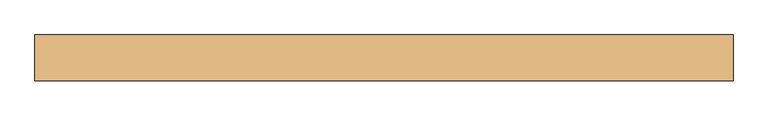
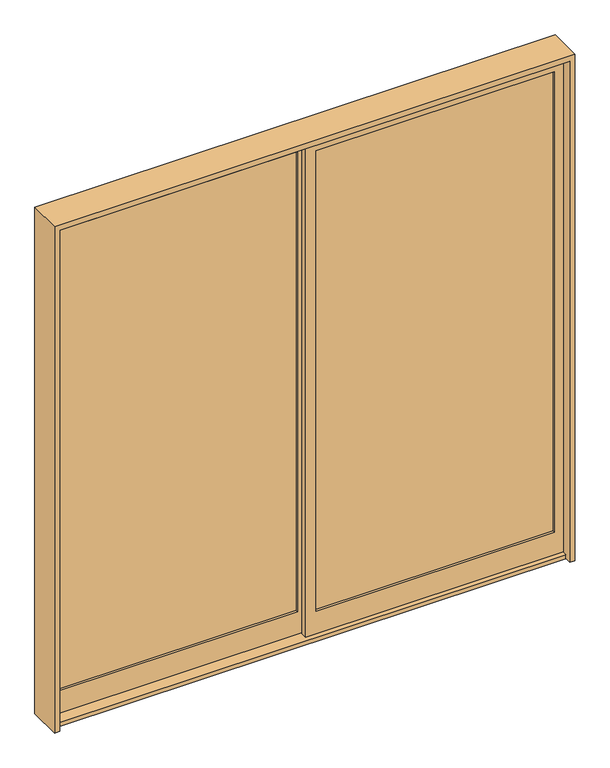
"""IFC4 building model written with IfcOpenShell, lengths in millimetres: door geometry, C_引違扉_フラッシュ : SSD1-H2550W2470."""

from ifc_helpers import new_model, si_unit, frame, origin, place, context, project, spatial, polyline, outline, extrude, source, transform, mapped, element, save


def door_75bfbb1d(model_context):
    return source(origin(), model_context, "Body", "SweptSolid", [
        extrude(outline(polyline([(1190.0, -21.5), (35.0, -21.5), (35.0, -13.5), (1190.0, -13.5), (1190.0, -21.5)])), frame((0.0, 0.0, 125.6453044), z_axis=(0.0, 0.0, 1.0), x_axis=(1.0, 0.0, 0.0)), (0.0, 0.0, 1.0), 2354.3546956),
        extrude(outline(polyline([(10.0, 1240.0), (2550.0, 1240.0), (2550.0, -15.0), (10.0, -15.0), (10.0, 1240.0)]), holes=[polyline([(2480.0, 1190.0), (125.6453044, 1190.0), (125.6453044, 35.0), (2480.0, 35.0), (2480.0, 1190.0)])]), frame((0.0, -32.5, 0.0), z_axis=(0.0, 1.0, 0.0), x_axis=(0.0, 0.0, 1.0)), (0.0, 0.0, 1.0), 30.0),
        extrude(outline(polyline([(-35.0, 13.5), (-1190.0, 13.5), (-1190.0, 21.5), (-35.0, 21.5), (-35.0, 13.5)])), frame((0.0, 0.0, 125.6453044), z_axis=(0.0, 0.0, 1.0), x_axis=(1.0, 0.0, 0.0)), (0.0, 0.0, 1.0), 2354.3546956),
        extrude(outline(polyline([(10.0, 15.0), (2550.0, 15.0), (2550.0, -1240.0), (10.0, -1240.0), (10.0, 15.0)]), holes=[polyline([(2480.0, -35.0), (125.6453044, -35.0), (125.6453044, -1190.0), (2480.0, -1190.0), (2480.0, -35.0)])]), frame((0.0, 2.5, 0.0), z_axis=(0.0, 1.0, 0.0), x_axis=(0.0, 0.0, 1.0)), (0.0, 0.0, 1.0), 30.0),
        extrude(outline(polyline([(-15.0, -1260.0), (-15.0, -1235.0), (2550.0, -1235.0), (2550.0, 1235.0), (-15.0, 1235.0), (-15.0, 1260.0), (2575.0, 1260.0), (2575.0, -1260.0), (-15.0, -1260.0)])), frame((0.0, -82.5, 0.0), z_axis=(0.0, 1.0, 0.0), x_axis=(0.0, 0.0, 1.0)), (0.0, 0.0, 1.0), 165.0),
        extrude(outline(polyline([(1235.0, 50.0), (1235.0, -50.0), (-1235.0, -50.0), (-1235.0, 50.0), (1235.0, 50.0)])), frame((0.0, 0.0, -15.0), z_axis=(0.0, 0.0, 1.0), x_axis=(1.0, 0.0, 0.0)), (0.0, 0.0, 1.0), 20.0),
    ])


if __name__ == "__main__":
    model = new_model("IFC4")
    model_context = context("Model", 3, world=origin())
    ifc_project = project(units=[si_unit("LENGTHUNIT", "METRE", prefix="MILLI")], contexts=[model_context])
    site = spatial("IfcSite", under=ifc_project)
    building = spatial("IfcBuilding", under=site)
    placement = place(None, origin())
    door_shape = door_75bfbb1d(model_context)
    element("IfcDoor", 1, ObjectType="C_引違扉_フラッシュ : SSD1-H2550W2470", at=placement, inside=building, context=model_context, shape_type="MappedRepresentation", body=[
        mapped(door_shape, transform((0.0, 0.0, 0.0), x_axis=(1.0, 0.0, 0.0), y_axis=(0.0, 1.0, 0.0), z_axis=(0.0, 0.0, 1.0))),
    ])
    save(model, "model.ifc")
